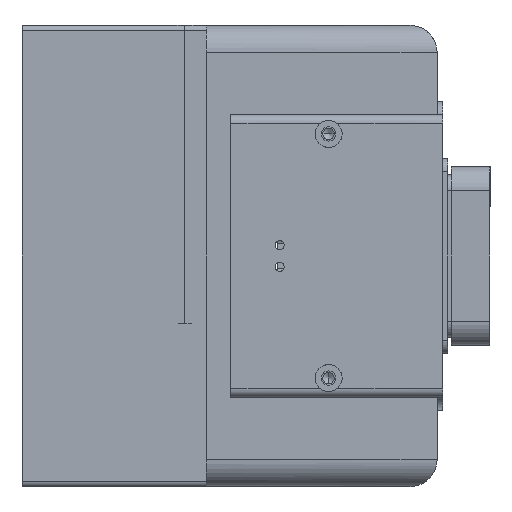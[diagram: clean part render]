
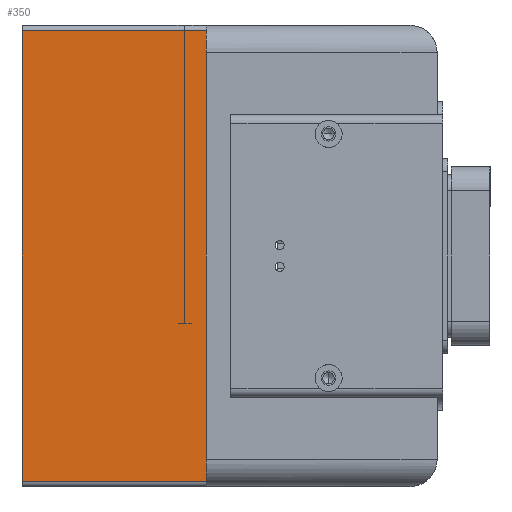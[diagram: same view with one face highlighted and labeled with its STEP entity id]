
A CAD part, left-side view. The second image highlights one B-rep face of the part: STEP entity #350.
In plain terms, the highlighted planar face has unit normal (-1, 0, 0).
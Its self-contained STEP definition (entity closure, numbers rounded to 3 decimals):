
#350 = ADVANCED_FACE ( 'NONE', ( #1963 ), #13889, .F. ) ;
#576 = ORIENTED_EDGE ( 'NONE', *, *, #20703, .F. ) ;
#1147 = LINE ( 'NONE', #3828, #12217 ) ;
#1327 = VECTOR ( 'NONE', #3596, 1000. ) ;
#1548 = LINE ( 'NONE', #14261, #5325 ) ;
#1576 = CARTESIAN_POINT ( 'NONE',  ( -142.5, 85., -83. ) ) ;
#1636 = CARTESIAN_POINT ( 'NONE',  ( -142.5, 85., 83. ) ) ;
#1936 = ORIENTED_EDGE ( 'NONE', *, *, #8208, .F. ) ;
#1963 = FACE_OUTER_BOUND ( 'NONE', #8124, .T. ) ;
#2287 = DIRECTION ( 'NONE',  ( 0., 0., 1. ) ) ;
#2445 = VERTEX_POINT ( 'NONE', #1636 ) ;
#3596 = DIRECTION ( 'NONE',  ( 0., 0., -1. ) ) ;
#3731 = EDGE_CURVE ( 'NONE', #12661, #14560, #1548, .T. ) ;
#3828 = CARTESIAN_POINT ( 'NONE',  ( -142.5, 153., 0. ) ) ;
#4265 = DIRECTION ( 'NONE',  ( 1., 0., 0. ) ) ;
#4480 = CARTESIAN_POINT ( 'NONE',  ( -142.5, 153., -85. ) ) ;
#5325 = VECTOR ( 'NONE', #17382, 1000. ) ;
#7838 = ORIENTED_EDGE ( 'NONE', *, *, #8339, .F. ) ;
#8124 = EDGE_LOOP ( 'NONE', ( #7838, #576, #17315, #1936 ) ) ;
#8160 = LINE ( 'NONE', #10689, #14138 ) ;
#8208 = EDGE_CURVE ( 'NONE', #2445, #12661, #15682, .T. ) ;
#8339 = EDGE_CURVE ( 'NONE', #16163, #2445, #8160, .T. ) ;
#10689 = CARTESIAN_POINT ( 'NONE',  ( -142.5, 153., 83. ) ) ;
#12217 = VECTOR ( 'NONE', #2287, 1000. ) ;
#12661 = VERTEX_POINT ( 'NONE', #1576 ) ;
#13706 = AXIS2_PLACEMENT_3D ( 'NONE', #4480, #4265, #18845 ) ;
#13889 = PLANE ( 'NONE',  #13706 ) ;
#13917 = CARTESIAN_POINT ( 'NONE',  ( -142.5, 153., 83. ) ) ;
#14138 = VECTOR ( 'NONE', #18247, 1000. ) ;
#14261 = CARTESIAN_POINT ( 'NONE',  ( -142.5, 153., -83. ) ) ;
#14560 = VERTEX_POINT ( 'NONE', #17058 ) ;
#15682 = LINE ( 'NONE', #16311, #1327 ) ;
#16163 = VERTEX_POINT ( 'NONE', #13917 ) ;
#16311 = CARTESIAN_POINT ( 'NONE',  ( -142.5, 85., 0. ) ) ;
#17058 = CARTESIAN_POINT ( 'NONE',  ( -142.5, 153., -83. ) ) ;
#17315 = ORIENTED_EDGE ( 'NONE', *, *, #3731, .F. ) ;
#17382 = DIRECTION ( 'NONE',  ( 0., 1., 0. ) ) ;
#18247 = DIRECTION ( 'NONE',  ( 0., -1., 0. ) ) ;
#18845 = DIRECTION ( 'NONE',  ( 0., 0., -1. ) ) ;
#20703 = EDGE_CURVE ( 'NONE', #14560, #16163, #1147, .T. ) ;
